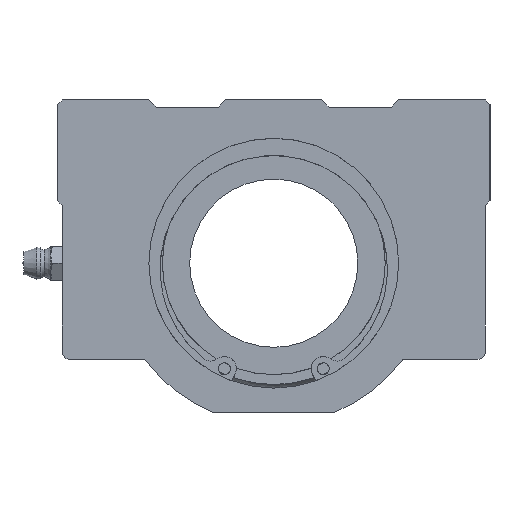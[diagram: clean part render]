
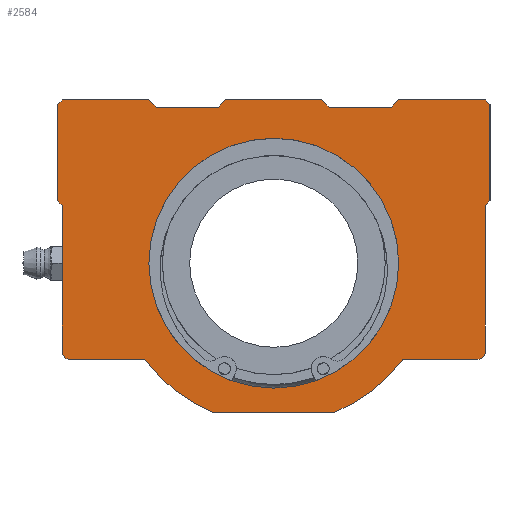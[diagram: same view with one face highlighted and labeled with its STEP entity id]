
A CAD part, left-side view. The second image highlights one B-rep face of the part: STEP entity #2584.
In plain terms, the highlighted planar face has unit normal (-1, 0, 0).
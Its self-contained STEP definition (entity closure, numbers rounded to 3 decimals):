
#1686=CARTESIAN_POINT('',(0.0,26.0,0.));
#1687=VERTEX_POINT('',#1686);
#1688=CARTESIAN_POINT('',(0.0,0.0,0.0));
#1689=DIRECTION('',(1.0,0.0,0.0));
#1690=DIRECTION('',(0.0,-1.0,0.0));
#1691=AXIS2_PLACEMENT_3D('',#1688,#1689,#1690);
#1692=CIRCLE('',#1691,26.0);
#1693=EDGE_CURVE('',#1687,#1687,#1692,.T.);
#1910=CARTESIAN_POINT('',(0.0,45.0,33.));
#1911=VERTEX_POINT('',#1910);
#1926=CARTESIAN_POINT('',(0.0,45.0,13.));
#1927=VERTEX_POINT('',#1926);
#1934=CARTESIAN_POINT('',(0.0,45.0,13.));
#1935=DIRECTION('',(0.0,0.0,1.0));
#1936=VECTOR('',#1935,20.);
#1937=LINE('',#1934,#1936);
#1938=EDGE_CURVE('',#1927,#1911,#1937,.T.);
#1948=CARTESIAN_POINT('',(0.0,44.,-18.5));
#1949=VERTEX_POINT('',#1948);
#1958=CARTESIAN_POINT('',(0.0,44.,12.));
#1959=VERTEX_POINT('',#1958);
#1960=CARTESIAN_POINT('',(0.0,44.,-18.5));
#1961=DIRECTION('',(0.0,0.0,1.0));
#1962=VECTOR('',#1961,30.5);
#1963=LINE('',#1960,#1962);
#1964=EDGE_CURVE('',#1949,#1959,#1963,.T.);
#2049=CARTESIAN_POINT('',(0.0,12.698,-31.));
#2050=VERTEX_POINT('',#2049);
#2057=CARTESIAN_POINT('',(0.0,26.875,-20.));
#2058=VERTEX_POINT('',#2057);
#2059=CARTESIAN_POINT('',(0.0,0.0,0.0));
#2060=DIRECTION('',(1.,0.0,0.0));
#2061=DIRECTION('',(0.0,0.379,-0.925));
#2062=AXIS2_PLACEMENT_3D('',#2059,#2060,#2061);
#2063=CIRCLE('',#2062,33.5);
#2064=EDGE_CURVE('',#2050,#2058,#2063,.T.);
#2088=CARTESIAN_POINT('',(0.0,-12.698,-31.));
#2089=VERTEX_POINT('',#2088);
#2096=CARTESIAN_POINT('',(0.0,-12.698,-31.));
#2097=DIRECTION('',(0.0,1.0,0.0));
#2098=VECTOR('',#2097,25.397);
#2099=LINE('',#2096,#2098);
#2100=EDGE_CURVE('',#2089,#2050,#2099,.T.);
#2120=CARTESIAN_POINT('',(0.0,-26.875,-20.));
#2121=VERTEX_POINT('',#2120);
#2128=CARTESIAN_POINT('',(0.0,0.0,0.0));
#2129=DIRECTION('',(1.,0.0,0.0));
#2130=DIRECTION('',(0.0,0.379,-0.925));
#2131=AXIS2_PLACEMENT_3D('',#2128,#2129,#2130);
#2132=CIRCLE('',#2131,33.5);
#2133=EDGE_CURVE('',#2121,#2089,#2132,.T.);
#2144=CARTESIAN_POINT('',(0.0,-42.5,-20.));
#2145=VERTEX_POINT('',#2144);
#2154=CARTESIAN_POINT('',(0.0,-42.5,-20.));
#2155=DIRECTION('',(0.0,1.0,0.0));
#2156=VECTOR('',#2155,15.625);
#2157=LINE('',#2154,#2156);
#2158=EDGE_CURVE('',#2145,#2121,#2157,.T.);
#2181=CARTESIAN_POINT('',(0.0,-45.0,33.));
#2182=VERTEX_POINT('',#2181);
#2191=CARTESIAN_POINT('',(0.0,-45.0,13.));
#2192=VERTEX_POINT('',#2191);
#2193=CARTESIAN_POINT('',(0.0,-45.0,33.));
#2194=DIRECTION('',(0.0,0.0,-1.0));
#2195=VECTOR('',#2194,20.);
#2196=LINE('',#2193,#2195);
#2197=EDGE_CURVE('',#2182,#2192,#2196,.T.);
#2223=CARTESIAN_POINT('',(0.0,-44.0,34.));
#2224=VERTEX_POINT('',#2223);
#2239=CARTESIAN_POINT('',(0.0,-26.,34.));
#2240=VERTEX_POINT('',#2239);
#2247=CARTESIAN_POINT('',(0.0,-26.,34.));
#2248=DIRECTION('',(0.0,-1.0,0.0));
#2249=VECTOR('',#2248,18.);
#2250=LINE('',#2247,#2249);
#2251=EDGE_CURVE('',#2240,#2224,#2250,.T.);
#2274=CARTESIAN_POINT('',(0.0,-44.0,34.));
#2275=DIRECTION('',(0.0,-0.707,-0.707));
#2276=VECTOR('',#2275,1.414);
#2277=LINE('',#2274,#2276);
#2278=EDGE_CURVE('',#2224,#2182,#2277,.T.);
#2289=CARTESIAN_POINT('',(0.0,44.0,34.));
#2290=VERTEX_POINT('',#2289);
#2299=CARTESIAN_POINT('',(0.0,26.,34.));
#2300=VERTEX_POINT('',#2299);
#2301=CARTESIAN_POINT('',(0.0,44.0,34.));
#2302=DIRECTION('',(0.0,-1.0,0.0));
#2303=VECTOR('',#2302,18.);
#2304=LINE('',#2301,#2303);
#2305=EDGE_CURVE('',#2290,#2300,#2304,.T.);
#2342=CARTESIAN_POINT('',(0.0,45.0,33.));
#2343=DIRECTION('',(0.0,-0.707,0.707));
#2344=VECTOR('',#2343,1.414);
#2345=LINE('',#2342,#2344);
#2346=EDGE_CURVE('',#1911,#2290,#2345,.T.);
#2357=CARTESIAN_POINT('',(0.0,-24.5,32.5));
#2358=VERTEX_POINT('',#2357);
#2359=CARTESIAN_POINT('',(0.0,-24.5,32.5));
#2360=DIRECTION('',(0.0,-0.707,0.707));
#2361=VECTOR('',#2360,2.121);
#2362=LINE('',#2359,#2361);
#2363=EDGE_CURVE('',#2358,#2240,#2362,.T.);
#2388=CARTESIAN_POINT('',(0.0,24.5,32.5));
#2389=VERTEX_POINT('',#2388);
#2390=CARTESIAN_POINT('',(0.0,26.,34.));
#2391=DIRECTION('',(0.0,-0.707,-0.707));
#2392=VECTOR('',#2391,2.121);
#2393=LINE('',#2390,#2392);
#2394=EDGE_CURVE('',#2300,#2389,#2393,.T.);
#2419=CARTESIAN_POINT('',(0.0,-44.,12.));
#2420=VERTEX_POINT('',#2419);
#2421=CARTESIAN_POINT('',(0.0,-45.0,13.));
#2422=DIRECTION('',(0.0,0.707,-0.707));
#2423=VECTOR('',#2422,1.414);
#2424=LINE('',#2421,#2423);
#2425=EDGE_CURVE('',#2192,#2420,#2424,.T.);
#2450=CARTESIAN_POINT('',(0.0,44.,12.));
#2451=DIRECTION('',(0.0,0.707,0.707));
#2452=VECTOR('',#2451,1.414);
#2453=LINE('',#2450,#2452);
#2454=EDGE_CURVE('',#1959,#1927,#2453,.T.);
#2474=CARTESIAN_POINT('',(0.0,-44.,-18.5));
#2475=VERTEX_POINT('',#2474);
#2489=CARTESIAN_POINT('',(0.0,-44.,12.));
#2490=DIRECTION('',(0.0,0.0,-1.0));
#2491=VECTOR('',#2490,30.5);
#2492=LINE('',#2489,#2491);
#2493=EDGE_CURVE('',#2420,#2475,#2492,.T.);
#2498=CARTESIAN_POINT('',(0.0,0.0,4.053));
#2499=DIRECTION('',(1.0,0.0,0.0));
#2500=DIRECTION('',(0.0,0.0,-1.0));
#2501=AXIS2_PLACEMENT_3D('',#2498,#2499,#2500);
#2502=PLANE('',#2501);
#2503=CARTESIAN_POINT('',(0.0,42.5,-20.));
#2504=VERTEX_POINT('',#2503);
#2505=CARTESIAN_POINT('',(0.0,42.5,-18.5));
#2506=DIRECTION('',(1.,0.0,0.0));
#2507=DIRECTION('',(0.0,0.707,-0.707));
#2508=AXIS2_PLACEMENT_3D('',#2505,#2506,#2507);
#2509=CIRCLE('',#2508,1.5);
#2510=EDGE_CURVE('',#2504,#1949,#2509,.T.);
#2511=ORIENTED_EDGE('',*,*,#2510,.F.);
#2512=CARTESIAN_POINT('',(0.0,26.875,-20.));
#2513=DIRECTION('',(0.0,1.0,0.0));
#2514=VECTOR('',#2513,15.625);
#2515=LINE('',#2512,#2514);
#2516=EDGE_CURVE('',#2058,#2504,#2515,.T.);
#2517=ORIENTED_EDGE('',*,*,#2516,.F.);
#2518=ORIENTED_EDGE('',*,*,#2064,.F.);
#2519=ORIENTED_EDGE('',*,*,#2100,.F.);
#2520=ORIENTED_EDGE('',*,*,#2133,.F.);
#2521=ORIENTED_EDGE('',*,*,#2158,.F.);
#2522=CARTESIAN_POINT('',(0.0,-42.5,-18.5));
#2523=DIRECTION('',(1.,0.0,0.0));
#2524=DIRECTION('',(0.0,-0.707,-0.707));
#2525=AXIS2_PLACEMENT_3D('',#2522,#2523,#2524);
#2526=CIRCLE('',#2525,1.5);
#2527=EDGE_CURVE('',#2475,#2145,#2526,.T.);
#2528=ORIENTED_EDGE('',*,*,#2527,.F.);
#2529=ORIENTED_EDGE('',*,*,#2493,.F.);
#2530=ORIENTED_EDGE('',*,*,#2425,.F.);
#2531=ORIENTED_EDGE('',*,*,#2197,.F.);
#2532=ORIENTED_EDGE('',*,*,#2278,.F.);
#2533=ORIENTED_EDGE('',*,*,#2251,.F.);
#2534=ORIENTED_EDGE('',*,*,#2363,.F.);
#2535=CARTESIAN_POINT('',(0.0,-11.5,32.5));
#2536=VERTEX_POINT('',#2535);
#2537=CARTESIAN_POINT('',(0.0,-11.5,32.5));
#2538=DIRECTION('',(0.0,-1.0,0.0));
#2539=VECTOR('',#2538,13.);
#2540=LINE('',#2537,#2539);
#2541=EDGE_CURVE('',#2536,#2358,#2540,.T.);
#2542=ORIENTED_EDGE('',*,*,#2541,.F.);
#2543=CARTESIAN_POINT('',(0.0,-10.,34.));
#2544=VERTEX_POINT('',#2543);
#2545=CARTESIAN_POINT('',(0.0,-10.,34.));
#2546=DIRECTION('',(0.0,-0.707,-0.707));
#2547=VECTOR('',#2546,2.121);
#2548=LINE('',#2545,#2547);
#2549=EDGE_CURVE('',#2544,#2536,#2548,.T.);
#2550=ORIENTED_EDGE('',*,*,#2549,.F.);
#2551=CARTESIAN_POINT('',(0.0,10.,34.0));
#2552=VERTEX_POINT('',#2551);
#2553=CARTESIAN_POINT('',(0.0,10.,34.0));
#2554=DIRECTION('',(0.0,-1.0,0.0));
#2555=VECTOR('',#2554,20.0);
#2556=LINE('',#2553,#2555);
#2557=EDGE_CURVE('',#2552,#2544,#2556,.T.);
#2558=ORIENTED_EDGE('',*,*,#2557,.F.);
#2559=CARTESIAN_POINT('',(0.0,11.5,32.5));
#2560=VERTEX_POINT('',#2559);
#2561=CARTESIAN_POINT('',(0.0,11.5,32.5));
#2562=DIRECTION('',(0.0,-0.707,0.707));
#2563=VECTOR('',#2562,2.121);
#2564=LINE('',#2561,#2563);
#2565=EDGE_CURVE('',#2560,#2552,#2564,.T.);
#2566=ORIENTED_EDGE('',*,*,#2565,.F.);
#2567=CARTESIAN_POINT('',(0.0,24.5,32.5));
#2568=DIRECTION('',(0.0,-1.0,0.0));
#2569=VECTOR('',#2568,13.);
#2570=LINE('',#2567,#2569);
#2571=EDGE_CURVE('',#2389,#2560,#2570,.T.);
#2572=ORIENTED_EDGE('',*,*,#2571,.F.);
#2573=ORIENTED_EDGE('',*,*,#2394,.F.);
#2574=ORIENTED_EDGE('',*,*,#2305,.F.);
#2575=ORIENTED_EDGE('',*,*,#2346,.F.);
#2576=ORIENTED_EDGE('',*,*,#1938,.F.);
#2577=ORIENTED_EDGE('',*,*,#2454,.F.);
#2578=ORIENTED_EDGE('',*,*,#1964,.F.);
#2579=EDGE_LOOP('',(#2511,#2517,#2518,#2519,#2520,#2521,#2528,#2529,#2530,#2531,#2532,#2533,#2534,#2542,#2550,#2558,#2566,#2572,#2573,#2574,#2575,#2576,#2577,#2578));
#2580=FACE_OUTER_BOUND('',#2579,.T.);
#2581=ORIENTED_EDGE('',*,*,#1693,.T.);
#2582=EDGE_LOOP('',(#2581));
#2583=FACE_BOUND('',#2582,.T.);
#2584=ADVANCED_FACE('',(#2580,#2583),#2502,.F.);
